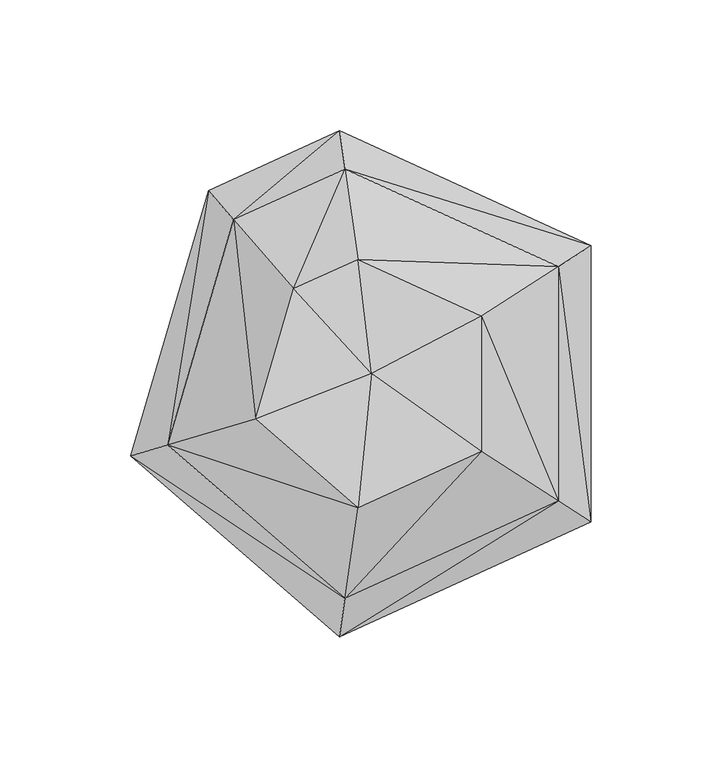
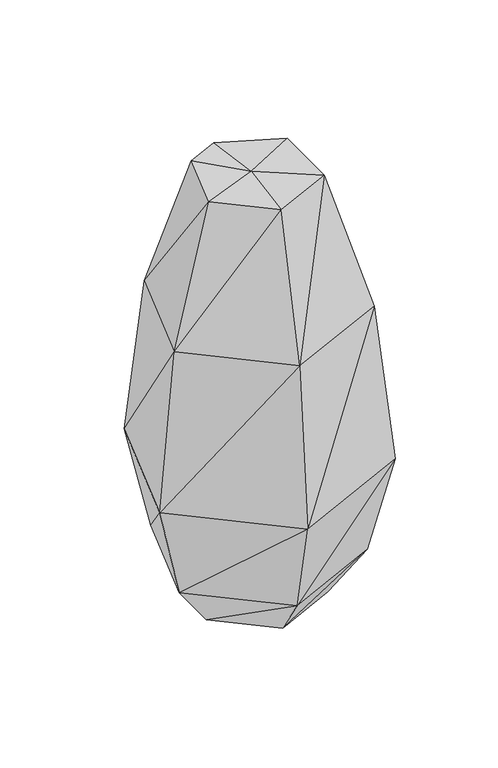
"""IFC4 building model written with IfcOpenShell, lengths in millimetres: geographic element geometry, Enscape AssetDefinition - Origami Vase 03 : Enscape AssetDefinition - Origami Vase 03."""

import ifcopenshell
import ifcopenshell.guid

model = None  # the IFC model being written
_history = None  # IfcOwnerHistory: only IFC2X3 demands one
_inside = {}  # id of a spatial element -> (the spatial element, [elements in it])
_under = {}  # id of a project, library or spatial element -> (it, [spatial elements below it])
_declared = {}  # id of a project -> (the project, [libraries it declares])
_typed = {}  # id of a type object -> (the type object, [elements of that type])
_made_of = {}  # id of a material, layer set ... -> (it, [elements and type objects made of it])


def new_model(schema):
    """Start an empty IFC model of exactly this schema.

    Asked for "IFC4X3", IfcOpenShell would pick the latest addendum, in which some entities
    have other attributes; the version numbers below select the first issue.
    IFC2X3 requires an IfcOwnerHistory on every rooted entity: one is made here for all.
    """
    global model, _history
    if schema == "IFC4X3":
        model = ifcopenshell.file(schema_version=(4, 3, 0, 0))
    else:
        model = ifcopenshell.file(schema=schema)
    _inside.clear()
    _under.clear()
    _declared.clear()
    _typed.clear()
    _made_of.clear()
    _history = None
    if model.schema == "IFC2X3":
        org = make("IfcOrganization", Name="unknown")
        user = make(
            "IfcPersonAndOrganization",
            ThePerson=make("IfcPerson", FamilyName="unknown"),
            TheOrganization=org,
        )
        app = make(
            "IfcApplication",
            ApplicationDeveloper=org,
            Version="unknown",
            ApplicationFullName="unknown",
            ApplicationIdentifier="unknown",
        )
        _history = make(
            "IfcOwnerHistory",
            OwningUser=user,
            OwningApplication=app,
            ChangeAction="ADDED",
            CreationDate=0,
        )
    return model


def make(cls, **values):
    """One entity of the class cls with the attributes given. An attribute that is None is left unset."""
    return model.create_entity(
        cls, **{name: value for name, value in values.items() if value is not None}
    )


def rooted(cls, **values):
    """An entity with a GlobalId (a new one), such as an element, a storey or a relation."""
    return make(cls, GlobalId=ifcopenshell.guid.new(), OwnerHistory=_history, **values)


def si_unit(unit_type, name, prefix=None):
    """IfcSIUnit, for example si_unit("LENGTHUNIT", "METRE", prefix="MILLI")."""
    return make("IfcSIUnit", UnitType=unit_type, Prefix=prefix, Name=name)


def assignment(units):
    """IfcUnitAssignment: the units of a project."""
    return None if units is None else make("IfcUnitAssignment", Units=units)


def point(xyz):
    """IfcCartesianPoint."""
    return None if xyz is None else make("IfcCartesianPoint", Coordinates=xyz)


def direction(xyz):
    """IfcDirection."""
    return None if xyz is None else make("IfcDirection", DirectionRatios=xyz)


def frame(location, z_axis=None, x_axis=None):
    """IfcAxis2Placement3D, a coordinate frame: its origin and axes. An axis left out is left unset."""
    return make(
        "IfcAxis2Placement3D",
        Location=point(location),
        Axis=direction(z_axis),
        RefDirection=direction(x_axis),
    )


def origin():
    """The frame at (0, 0, 0) with its axes left unset."""
    return frame((0.0, 0.0, 0.0))


def place(relative_to, where):
    """IfcLocalPlacement: puts the frame where relative to a parent placement (None: the world)."""
    return make(
        "IfcLocalPlacement", PlacementRelTo=relative_to, RelativePlacement=where
    )


def context(
    kind, dimensions, precision=None, world=None, true_north=None, identifier=None
):
    """IfcGeometricRepresentationContext, for example the 3D "Model" context."""
    return make(
        "IfcGeometricRepresentationContext",
        ContextIdentifier=identifier,
        ContextType=kind,
        CoordinateSpaceDimension=dimensions,
        Precision=precision,
        WorldCoordinateSystem=world,
        TrueNorth=true_north,
    )


def project(units=None, contexts=None):
    """IfcProject with its units and contexts."""
    return rooted(
        "IfcProject",
        Name="project",
        RepresentationContexts=contexts,
        UnitsInContext=assignment(units),
    )


def spatial(cls, under=None, at=None, **own):
    """A site, building, storey or space (cls), placed at a placement, below another one or the project."""
    s = rooted(cls, ObjectPlacement=at, **own)
    if under is not None:
        _under.setdefault(under.id(), (under, []))[1].append(s)
    return s


def faces_of(points, faces, orient=None, outer=None):
    """IfcFace entities. A face is a list of loops; a loop is a list of indices into points, from 0.

    orient and outer hold one flag for each loop. By default every Orientation is true, the
    first loop of a face is its IfcFaceOuterBound and the others are IfcFaceBound.
    """
    made = []
    for i, loops in enumerate(faces):
        bounds = []
        for j, loop in enumerate(loops):
            is_outer = j == 0 if outer is None else outer[i][j]
            bounds.append(
                make(
                    "IfcFaceOuterBound" if is_outer else "IfcFaceBound",
                    Bound=make("IfcPolyLoop", Polygon=[points[k] for k in loop]),
                    Orientation=True if orient is None else orient[i][j],
                )
            )
        made.append(make("IfcFace", Bounds=bounds))
    return made


def faceted_brep(points, faces, orient=None, outer=None, voids=None):
    """IfcFacetedBrep: a solid bounded by flat faces; with voids (closed shells), ...WithVoids."""
    shared = [point(p) for p in points]
    hull = make("IfcClosedShell", CfsFaces=faces_of(shared, faces, orient, outer))
    if voids is None:
        return make("IfcFacetedBrep", Outer=hull)
    return make(
        "IfcFacetedBrepWithVoids",
        Outer=hull,
        Voids=[
            make(cls, CfsFaces=faces_of(shared, fs, o, b)) for cls, fs, o, b in voids
        ],
    )


def shape(context_of_items, identifier, shape_type, items):
    """IfcShapeRepresentation: the items that make up one representation, for example the "Body"."""
    return make(
        "IfcShapeRepresentation",
        ContextOfItems=context_of_items,
        RepresentationIdentifier=identifier,
        RepresentationType=shape_type,
        Items=items,
    )


def source(mapping_origin, context_of_items, identifier, shape_type, items):
    """IfcRepresentationMap: a shape defined once, which mapped items show again and again."""
    return make(
        "IfcRepresentationMap",
        MappingOrigin=mapping_origin,
        MappedRepresentation=shape(context_of_items, identifier, shape_type, items),
    )


def transform(
    local_origin,
    x_axis=None,
    y_axis=None,
    z_axis=None,
    scale=None,
    scale2=None,
    scale3=None,
    uniform=True,
):
    """IfcCartesianTransformationOperator3D, or its non-uniform kind. x_axis, y_axis, z_axis: its Axis1, 2, 3."""
    if uniform:
        return make(
            "IfcCartesianTransformationOperator3D",
            Axis1=direction(x_axis),
            Axis2=direction(y_axis),
            LocalOrigin=point(local_origin),
            Scale=scale,
            Axis3=direction(z_axis),
        )
    return make(
        "IfcCartesianTransformationOperator3DnonUniform",
        Axis1=direction(x_axis),
        Axis2=direction(y_axis),
        LocalOrigin=point(local_origin),
        Scale=scale,
        Axis3=direction(z_axis),
        Scale2=scale2,
        Scale3=scale3,
    )


def mapped(mapping_source, mapping_target):
    """IfcMappedItem: shows the shape of a source again, moved by a transform."""
    return make(
        "IfcMappedItem", MappingSource=mapping_source, MappingTarget=mapping_target
    )


def made_of(thing, what):
    """Note that an element or type object is made of a material, layer set ...; save() writes the relation."""
    if what is not None:
        _made_of.setdefault(what.id(), (what, []))[1].append(thing)
    return thing


def element(
    cls,
    number,
    at=None,
    inside=None,
    cuts=None,
    type_object=None,
    material=None,
    context=None,
    identifier="Body",
    shape_type=None,
    held_by="IfcProductDefinitionShape",
    body=None,
    shapes=None,
    **own,
):
    """One element of the class cls, such as IfcWall. Its Tag is "e" and its number.

    at: its placement. inside: the storey or other place that contains it. cuts: it is an
    opening in that element (IfcRelVoidsElement). A single representation is given by context,
    identifier, shape_type and body (its items); several are given by shapes. held_by: the class
    of the entity that holds the representations. save() writes the other relations.
    """
    e = rooted(cls, Tag="e%d" % number, ObjectPlacement=at, **own)
    if body is not None:
        shapes = [shape(context, identifier, shape_type, body)]
    if shapes is not None:
        e.Representation = make(held_by, Representations=shapes)
    if inside is not None:
        _inside.setdefault(inside.id(), (inside, []))[1].append(e)
    if cuts is not None:
        rooted(
            "IfcRelVoidsElement", RelatingBuildingElement=cuts, RelatedOpeningElement=e
        )
    if type_object is not None:
        _typed.setdefault(type_object.id(), (type_object, []))[1].append(e)
    return made_of(e, material)


def aggregate(whole, parts):
    """IfcRelAggregates: a whole, such as a stair, and the parts it consists of."""
    return rooted("IfcRelAggregates", RelatingObject=whole, RelatedObjects=parts)


def save(model, path):
    """Write the relations noted so far, then the file.

    IfcRelAggregates (storeys below a building ...), IfcRelContainedInSpatialStructure (elements
    in a storey), IfcRelDefinesByType, IfcRelAssociatesMaterial and IfcRelDeclares: one each for
    every whole, place, type object, material and project.
    """
    for whole, parts in _under.values():
        aggregate(whole, parts)
    for where, things in _inside.values():
        rooted(
            "IfcRelContainedInSpatialStructure",
            RelatedElements=things,
            RelatingStructure=where,
        )
    for kind, things in _typed.values():
        rooted("IfcRelDefinesByType", RelatedObjects=things, RelatingType=kind)
    for what, things in _made_of.values():
        rooted("IfcRelAssociatesMaterial", RelatedObjects=things, RelatingMaterial=what)
    for by, libraries in _declared.values():
        rooted("IfcRelDeclares", RelatingContext=by, RelatedDefinitions=libraries)
    model.write(path)


def geographic_element_2400c7e3(model_context):
    return source(origin(), model_context, "Body", "Brep", [
        faceted_brep([(44.4336496, -26.9438494, 0.0), (44.4336757, 27.5135376, 0.0), (67.818068, -41.9721417, 37.2755118), (67.8180829, 42.5417945, 37.2755118), (-9.0584503, 77.6501, 37.275508), (0.2479154, 4.2637303, 0.0), (-5.102498, 50.135918, 0.0), (-5.1025194, -49.5662093, 0.0), (-30.9162065, 38.347207, 0.0), (-46.2586135, -13.9042251, 0.0), (-49.1194576, 59.3548901, 37.275508), (-72.9297549, -21.7355751, 37.2755118), (-9.0584923, -77.0803913, 37.2755118), (-11.8451016, -96.4616016, 115.5099049), (84.2902437, -52.5581762, 115.5099347), (-91.7171165, -27.2520296, 115.5099049), (-61.9419627, 74.1528496, 115.5099198), (-77.5630325, -23.096025, 245.9245771), (-9.7457124, -81.8601251, 245.924592), (71.8803778, -44.5828289, 245.9246069), (-4.7683888, -47.2423509, 356.7972481), (42.4585827, -25.6745555, 356.7973077), (-52.2817001, 63.0043074, 245.9245771), (-44.0059491, -13.2427877, 356.7972183), (0.332619, 4.0782443, 356.7973375), (42.458605, 26.2442436, 356.7972481), (71.8804151, 45.1524928, 245.924592), (-4.7683888, 47.8120446, 356.7972481), (-29.3787513, 36.572881, 356.7972481), (-9.7456668, 82.4298561, 245.924592), (84.2902735, 53.1278215, 115.5099124), (-11.8450457, 97.0313251, 115.5099049)], [[[0, 1, 2]], [[3, 1, 4]], [[5, 6, 1]], [[5, 1, 0]], [[2, 1, 3]], [[4, 1, 6]], [[5, 0, 7]], [[2, 7, 0]], [[5, 8, 6]], [[5, 9, 8]], [[5, 7, 9]], [[4, 6, 10]], [[10, 6, 8]], [[10, 8, 11]], [[11, 8, 9]], [[11, 9, 12]], [[12, 9, 7]], [[12, 7, 2]], [[13, 12, 14]], [[13, 11, 12]], [[14, 12, 2]], [[15, 11, 13]], [[15, 10, 11]], [[16, 10, 15]], [[16, 4, 10]], [[17, 15, 18]], [[17, 16, 15]], [[18, 15, 13]], [[18, 13, 19]], [[19, 13, 14]], [[20, 18, 21]], [[20, 17, 18]], [[21, 18, 19]], [[22, 16, 17]], [[23, 17, 20]], [[23, 22, 17]], [[24, 23, 20]], [[24, 20, 21]], [[24, 21, 25]], [[19, 25, 21]], [[19, 26, 25]], [[14, 26, 19]], [[25, 26, 27]], [[24, 25, 27]], [[24, 27, 28]], [[24, 28, 23]], [[28, 22, 23]], [[27, 29, 28]], [[28, 29, 22]], [[27, 26, 29]], [[14, 30, 26]], [[26, 30, 29]], [[2, 30, 14]], [[2, 3, 30]], [[30, 3, 31]], [[29, 30, 31]], [[29, 31, 22]], [[31, 4, 16]], [[31, 3, 4]], [[22, 31, 16]]]),
    ])


if __name__ == "__main__":
    model = new_model("IFC4")
    model_context = context("Model", 3, world=origin())
    ifc_project = project(units=[si_unit("LENGTHUNIT", "METRE", prefix="MILLI")], contexts=[model_context])
    site = spatial("IfcSite", under=ifc_project)
    building = spatial("IfcBuilding", under=site)
    placement = place(None, origin())
    geographic_element_shape = geographic_element_2400c7e3(model_context)
    element("IfcGeographicElement", 1, ObjectType="Enscape AssetDefinition - Origami Vase 03 : Enscape AssetDefinition - Origami Vase 03", at=placement, inside=building, context=model_context, shape_type="MappedRepresentation", body=[
        mapped(geographic_element_shape, transform((0.0, 0.0, 0.0), x_axis=(1.0, 0.0, 0.0), y_axis=(0.0, 1.0, 0.0), z_axis=(0.0, 0.0, 1.0))),
    ])
    save(model, "model.ifc")
